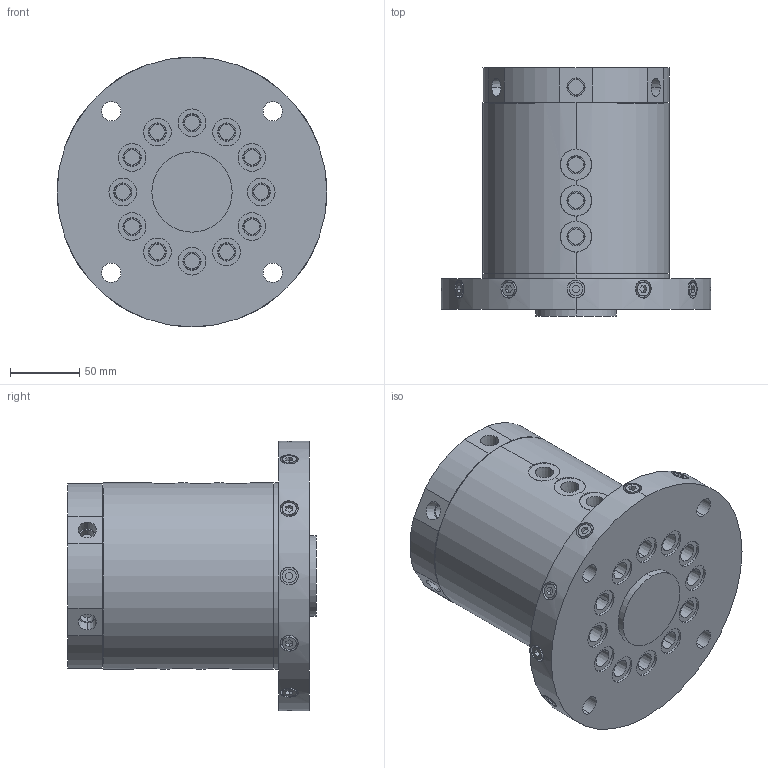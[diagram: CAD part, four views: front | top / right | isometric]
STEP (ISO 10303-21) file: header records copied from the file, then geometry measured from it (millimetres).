
FILE_DESCRIPTION((' '),'2;1');
FILE_NAME( 'PTMD66.x_t.stp', '2025-01-06T11:28:01', (' '), ('--- Datakit www.datakit.com---'), ' Datakit CrossCadWare V2024.1 Dec 21 2023', 'Mastercam 2025', ' ');
FILE_SCHEMA(('AUTOMOTIVE_DESIGN { 1 0 10303 214 1 1 1 1 }'));
Length unit declared in the file: millimetre
Products named in the file (1): PTMD66
Bounding box: 195 x 179.5 x 195 mm (x, y, z)
Volume: 2752968.3 mm3; surface area: 233361.3 mm2
Topology: 15 solids, 15 shells, 596 faces, 1308 edges, 880 vertices
Faces by surface type: plane 266, cylinder 210, cone 120
Entity records: 17931 total; most frequent: CARTESIAN_POINT 3805, DIRECTION 3098, ORIENTED_EDGE 2616, EDGE_CURVE 1308, AXIS2_PLACEMENT_3D 1245, VERTEX_POINT 880, EDGE_LOOP 742, CIRCLE 648
